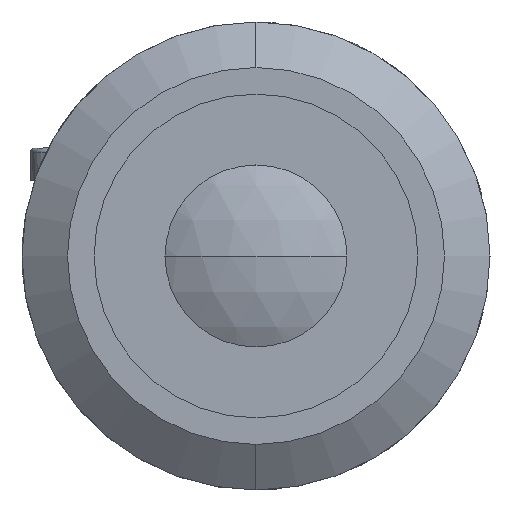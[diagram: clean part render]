
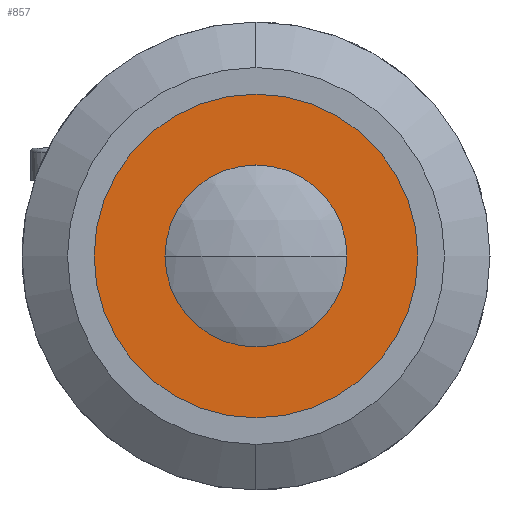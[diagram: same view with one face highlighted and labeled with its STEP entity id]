
A CAD part, left-side view. The second image highlights one B-rep face of the part: STEP entity #857.
In plain terms, the highlighted planar face has unit normal (-1, 0, 0).
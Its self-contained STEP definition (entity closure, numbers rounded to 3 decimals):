
#116 = DIRECTION ( 'NONE',  ( 0., 0., 1. ) ) ;
#244 = EDGE_LOOP ( 'NONE', ( #992, #1011 ) ) ;
#440 = EDGE_CURVE ( 'NONE', #1607, #903, #778, .T. ) ;
#465 = DIRECTION ( 'NONE',  ( -1., 0., 0. ) ) ;
#492 = EDGE_CURVE ( 'NONE', #657, #2419, #3139, .T. ) ;
#657 = VERTEX_POINT ( 'NONE', #3235 ) ;
#700 = EDGE_CURVE ( 'NONE', #903, #1607, #3555, .T. ) ;
#722 = AXIS2_PLACEMENT_3D ( 'NONE', #2267, #465, #2519 ) ;
#762 = EDGE_LOOP ( 'NONE', ( #933, #945 ) ) ;
#778 = CIRCLE ( 'NONE', #816, 13. ) ;
#816 = AXIS2_PLACEMENT_3D ( 'NONE', #3551, #1957, #116 ) ;
#836 = PLANE ( 'NONE',  #3549 ) ;
#857 = ADVANCED_FACE ( 'NONE', ( #3107, #3181 ), #836, .F. ) ;
#903 = VERTEX_POINT ( 'NONE', #2582 ) ;
#933 = ORIENTED_EDGE ( 'NONE', *, *, #2472, .F. ) ;
#945 = ORIENTED_EDGE ( 'NONE', *, *, #492, .F. ) ;
#992 = ORIENTED_EDGE ( 'NONE', *, *, #440, .T. ) ;
#1011 = ORIENTED_EDGE ( 'NONE', *, *, #700, .T. ) ;
#1039 = DIRECTION ( 'NONE',  ( -1., 0., 0. ) ) ;
#1607 = VERTEX_POINT ( 'NONE', #2474 ) ;
#1751 = DIRECTION ( 'NONE',  ( 0., 0., -1. ) ) ;
#1784 = CARTESIAN_POINT ( 'NONE',  ( 3.8, 0., 0. ) ) ;
#1957 = DIRECTION ( 'NONE',  ( -1., 0., 0. ) ) ;
#2042 = CARTESIAN_POINT ( 'NONE',  ( 3.8, 0., 7. ) ) ;
#2066 = DIRECTION ( 'NONE',  ( 0., 0., 1. ) ) ;
#2267 = CARTESIAN_POINT ( 'NONE',  ( 3.8, 0., 0. ) ) ;
#2419 = VERTEX_POINT ( 'NONE', #2042 ) ;
#2472 = EDGE_CURVE ( 'NONE', #2419, #657, #3214, .T. ) ;
#2474 = CARTESIAN_POINT ( 'NONE',  ( 3.8, 0., 13. ) ) ;
#2519 = DIRECTION ( 'NONE',  ( 0., 0., 1. ) ) ;
#2555 = CARTESIAN_POINT ( 'NONE',  ( 3.8, 13., 0. ) ) ;
#2582 = CARTESIAN_POINT ( 'NONE',  ( 3.8, 0., -13. ) ) ;
#2613 = AXIS2_PLACEMENT_3D ( 'NONE', #2737, #1039, #3011 ) ;
#2737 = CARTESIAN_POINT ( 'NONE',  ( 3.8, 0., 0. ) ) ;
#3011 = DIRECTION ( 'NONE',  ( 0., 0., 1. ) ) ;
#3107 = FACE_BOUND ( 'NONE', #762, .T. ) ;
#3118 = AXIS2_PLACEMENT_3D ( 'NONE', #1784, #3645, #2066 ) ;
#3139 = CIRCLE ( 'NONE', #722, 7. ) ;
#3181 = FACE_OUTER_BOUND ( 'NONE', #244, .T. ) ;
#3214 = CIRCLE ( 'NONE', #3118, 7. ) ;
#3235 = CARTESIAN_POINT ( 'NONE',  ( 3.8, 0., -7. ) ) ;
#3374 = DIRECTION ( 'NONE',  ( 1., 0., 0. ) ) ;
#3549 = AXIS2_PLACEMENT_3D ( 'NONE', #2555, #3374, #1751 ) ;
#3551 = CARTESIAN_POINT ( 'NONE',  ( 3.8, 0., 0. ) ) ;
#3555 = CIRCLE ( 'NONE', #2613, 13. ) ;
#3645 = DIRECTION ( 'NONE',  ( -1., 0., 0. ) ) ;
